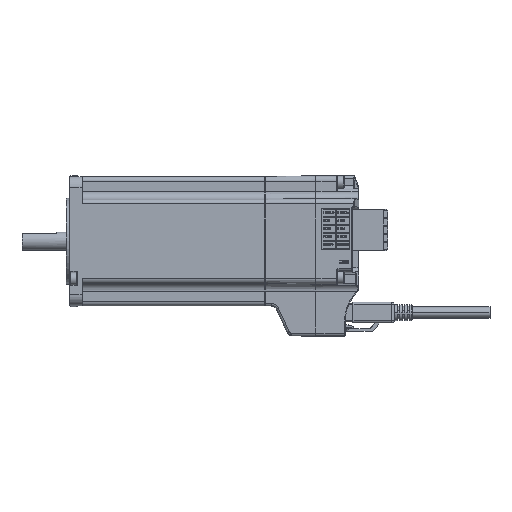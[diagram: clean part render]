
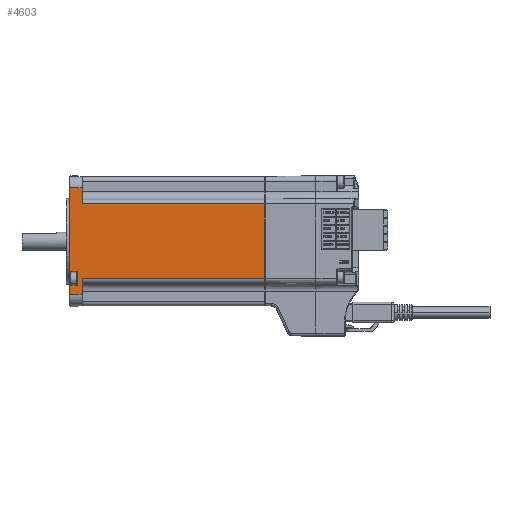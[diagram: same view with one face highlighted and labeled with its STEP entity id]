
A CAD part, left-side view. The second image highlights one B-rep face of the part: STEP entity #4603.
In plain terms, the highlighted planar face has unit normal (-1, 0, 0).
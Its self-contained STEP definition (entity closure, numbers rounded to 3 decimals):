
#989=DIRECTION('',(0.,-1.,0.));
#990=VECTOR('',#989,5.5);
#991=CARTESIAN_POINT('',(0.,0.,-52.07));
#992=LINE('',#991,#990);
#993=DIRECTION('',(0.,0.,1.));
#994=VECTOR('',#993,33.);
#995=CARTESIAN_POINT('',(0.,-86.,-45.));
#996=LINE('',#995,#994);
#997=DIRECTION('',(0.,0.,1.));
#998=VECTOR('',#997,7.07);
#999=CARTESIAN_POINT('',(0.,-5.5,-52.07));
#1000=LINE('',#999,#998);
#1001=DIRECTION('',(0.,0.,-1.));
#1002=VECTOR('',#1001,3.87);
#1003=CARTESIAN_POINT('',(0.,0.,-48.2));
#1004=LINE('',#1003,#1002);
#1005=DIRECTION('',(0.,0.,-1.));
#1006=VECTOR('',#1005,36.87);
#1007=CARTESIAN_POINT('',(0.,0.,-4.93));
#1008=LINE('',#1007,#1006);
#1009=DIRECTION('',(0.,0.,1.));
#1010=VECTOR('',#1009,7.07);
#1011=CARTESIAN_POINT('',(0.,-5.5,-12.));
#1012=LINE('',#1011,#1010);
#1013=DIRECTION('',(0.,-1.,0.));
#1014=VECTOR('',#1013,80.5);
#1015=CARTESIAN_POINT('',(0.,-5.5,-45.));
#1016=LINE('',#1015,#1014);
#1091=DIRECTION('',(0.,1.,0.));
#1092=VECTOR('',#1091,3.4);
#1093=CARTESIAN_POINT('',(0.,-3.4,-48.2));
#1094=LINE('',#1093,#1092);
#1107=DIRECTION('',(0.,-1.,0.));
#1108=VECTOR('',#1107,3.4);
#1109=CARTESIAN_POINT('',(0.,0.,-41.8));
#1110=LINE('',#1109,#1108);
#1120=DIRECTION('',(0.,0.,-1.));
#1121=VECTOR('',#1120,6.4);
#1122=CARTESIAN_POINT('',(0.,-3.4,-41.8));
#1123=LINE('',#1122,#1121);
#1410=DIRECTION('',(0.,1.,0.));
#1411=VECTOR('',#1410,5.5);
#1412=CARTESIAN_POINT('',(0.,-5.5,-4.93));
#1413=LINE('',#1412,#1411);
#1480=DIRECTION('',(0.,1.,0.));
#1481=VECTOR('',#1480,80.5);
#1482=CARTESIAN_POINT('',(0.,-86.,-12.));
#1483=LINE('',#1482,#1481);
#2392=CARTESIAN_POINT('',(0.,0.,-41.8));
#2393=VERTEX_POINT('',#2392);
#2410=CARTESIAN_POINT('',(0.,-3.4,-41.8));
#2411=VERTEX_POINT('',#2410);
#2686=CARTESIAN_POINT('',(0.,-5.5,-52.07));
#2687=VERTEX_POINT('',#2686);
#2688=CARTESIAN_POINT('',(0.,-5.5,-45.));
#2689=VERTEX_POINT('',#2688);
#2730=CARTESIAN_POINT('',(0.,-5.5,-12.));
#2731=VERTEX_POINT('',#2730);
#2732=CARTESIAN_POINT('',(0.,-5.5,-4.93));
#2733=VERTEX_POINT('',#2732);
#2772=CARTESIAN_POINT('',(0.,0.,-52.07));
#2773=VERTEX_POINT('',#2772);
#2774=CARTESIAN_POINT('',(0.,-86.,-45.));
#2775=VERTEX_POINT('',#2774);
#2776=CARTESIAN_POINT('',(0.,0.,-4.93));
#2777=VERTEX_POINT('',#2776);
#2778=CARTESIAN_POINT('',(0.,-86.,-12.));
#2779=VERTEX_POINT('',#2778);
#2896=CARTESIAN_POINT('',(0.,0.,-48.2));
#2897=VERTEX_POINT('',#2896);
#2908=CARTESIAN_POINT('',(0.,-3.4,-48.2));
#2909=VERTEX_POINT('',#2908);
#4576=CARTESIAN_POINT('',(0.,-43.,-28.5));
#4577=DIRECTION('',(1.,0.,0.));
#4578=DIRECTION('',(0.,0.,1.));
#4579=AXIS2_PLACEMENT_3D('',#4576,#4577,#4578);
#4580=PLANE('',#4579);
#4581=ORIENTED_EDGE('',*,*,#3533,.F.);
#4583=ORIENTED_EDGE('',*,*,#4582,.F.);
#4585=ORIENTED_EDGE('',*,*,#4584,.F.);
#4586=ORIENTED_EDGE('',*,*,#4562,.F.);
#4587=ORIENTED_EDGE('',*,*,#3297,.F.);
#4589=ORIENTED_EDGE('',*,*,#4588,.F.);
#4591=ORIENTED_EDGE('',*,*,#4590,.F.);
#4593=ORIENTED_EDGE('',*,*,#4592,.F.);
#4594=ORIENTED_EDGE('',*,*,#3289,.F.);
#4596=ORIENTED_EDGE('',*,*,#4595,.F.);
#4598=ORIENTED_EDGE('',*,*,#4597,.F.);
#4600=ORIENTED_EDGE('',*,*,#4599,.F.);
#4601=EDGE_LOOP('',(#4581,#4583,#4585,#4586,#4587,#4589,#4591,#4593,#4594,#4596,
#4598,#4600));
#4602=FACE_OUTER_BOUND('',#4601,.F.);
#4603=ADVANCED_FACE('',(#4602),#4580,.F.);
#3289=EDGE_CURVE('',#2777,#2393,#1008,.T.);
#3297=EDGE_CURVE('',#2897,#2773,#1004,.T.);
#3533=EDGE_CURVE('',#2775,#2779,#996,.T.);
#4562=EDGE_CURVE('',#2773,#2687,#992,.T.);
#4582=EDGE_CURVE('',#2689,#2775,#1016,.T.);
#4584=EDGE_CURVE('',#2687,#2689,#1000,.T.);
#4588=EDGE_CURVE('',#2909,#2897,#1094,.T.);
#4590=EDGE_CURVE('',#2411,#2909,#1123,.T.);
#4592=EDGE_CURVE('',#2393,#2411,#1110,.T.);
#4595=EDGE_CURVE('',#2733,#2777,#1413,.T.);
#4597=EDGE_CURVE('',#2731,#2733,#1012,.T.);
#4599=EDGE_CURVE('',#2779,#2731,#1483,.T.);
